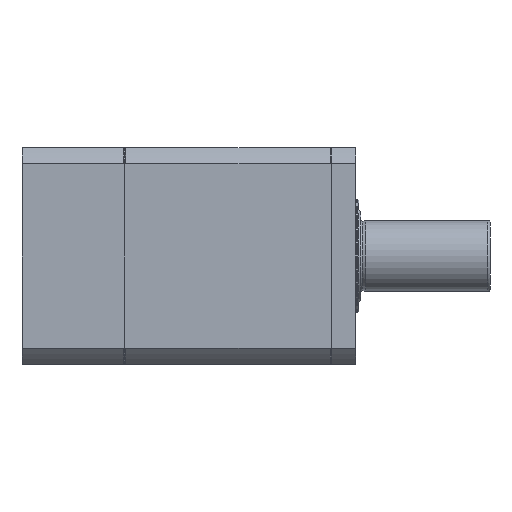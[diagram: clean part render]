
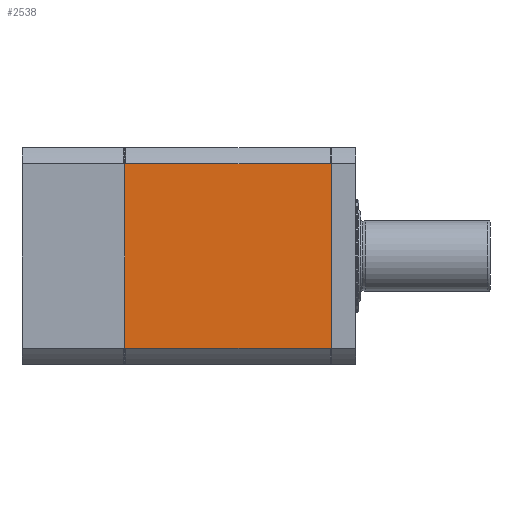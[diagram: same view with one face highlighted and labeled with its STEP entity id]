
A CAD part, front view. The second image highlights one B-rep face of the part: STEP entity #2538.
In plain terms, the highlighted planar face has unit normal (0, -1, 0).
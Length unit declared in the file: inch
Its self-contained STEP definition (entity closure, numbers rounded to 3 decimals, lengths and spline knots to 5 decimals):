
#209 = EDGE_CURVE ( 'NONE', #11390, #5976, #3810, .T. ) ;
#641 = VERTEX_POINT ( 'NONE', #8202 ) ;
#1088 = CARTESIAN_POINT ( 'NONE',  ( -0.01969, -2.10039, -1.7842 ) ) ;
#1378 = VERTEX_POINT ( 'NONE', #15413 ) ;
#1840 = CARTESIAN_POINT ( 'NONE',  ( -2.34471, -2.10039, -1.7842 ) ) ;
#2108 = VECTOR ( 'NONE', #4877, 39.37008 ) ;
#2406 = ORIENTED_EDGE ( 'NONE', *, *, #209, .F. ) ;
#2538 = ADVANCED_FACE ( 'NONE', ( #8187 ), #4128, .T. ) ;
#2589 = CARTESIAN_POINT ( 'NONE',  ( -3.99281, -2.10039, 1.77403 ) ) ;
#2959 = CARTESIAN_POINT ( 'NONE',  ( -0.0131, -2.10039, 1.77403 ) ) ;
#3158 = VERTEX_POINT ( 'NONE', #13363 ) ;
#3235 = CARTESIAN_POINT ( 'NONE',  ( -0.00654, -2.10039, 1.76384 ) ) ;
#3483 = ORIENTED_EDGE ( 'NONE', *, *, #14432, .F. ) ;
#3529 = CARTESIAN_POINT ( 'NONE',  ( -2.34471, -2.10039, 1.7842 ) ) ;
#3557 = CARTESIAN_POINT ( 'NONE',  ( -0.00654, -2.10039, -1.76384 ) ) ;
#3628 = DIRECTION ( 'NONE',  ( 0., 0., -1. ) ) ;
#3669 = CARTESIAN_POINT ( 'NONE',  ( -4.00591, -2.10039, 2.10039 ) ) ;
#3687 = CARTESIAN_POINT ( 'NONE',  ( 0., -2.10039, -1.75364 ) ) ;
#3810 = LINE ( 'NONE', #9415, #6575 ) ;
#3849 = B_SPLINE_CURVE_WITH_KNOTS ( 'NONE', 3,
 ( #17647, #15098, #16184, #12025 ),
 .UNSPECIFIED., .F., .F.,
 ( 4, 4 ),
 ( 0.0932, 0.09413 ),
 .UNSPECIFIED. ) ;
#4128 = PLANE ( 'NONE',  #9977 ) ;
#4207 = VERTEX_POINT ( 'NONE', #14386 ) ;
#4468 = ORIENTED_EDGE ( 'NONE', *, *, #12099, .T. ) ;
#4877 = DIRECTION ( 'NONE',  ( 1., 0., 0. ) ) ;
#4897 = VECTOR ( 'NONE', #6088, 39.37008 ) ;
#5179 = CARTESIAN_POINT ( 'NONE',  ( -0.0131, -2.10039, -1.77403 ) ) ;
#5496 = CARTESIAN_POINT ( 'NONE',  ( -4.00591, -2.10039, 1.75364 ) ) ;
#5932 = B_SPLINE_CURVE_WITH_KNOTS ( 'NONE', 3,
 ( #12114, #3557, #5179, #1088 ),
 .UNSPECIFIED., .F., .F.,
 ( 4, 4 ),
 ( 0.1903, 0.19124 ),
 .UNSPECIFIED. ) ;
#5976 = VERTEX_POINT ( 'NONE', #3687 ) ;
#6088 = DIRECTION ( 'NONE',  ( -1., 0., 0. ) ) ;
#6267 = LINE ( 'NONE', #1840, #2108 ) ;
#6575 = VECTOR ( 'NONE', #3628, 39.37008 ) ;
#6579 = CARTESIAN_POINT ( 'NONE',  ( -4.00591, -2.10039, 1.75364 ) ) ;
#6785 = EDGE_CURVE ( 'NONE', #4207, #3158, #6267, .T. ) ;
#6993 = CARTESIAN_POINT ( 'NONE',  ( -3.99937, -2.10039, 1.76384 ) ) ;
#7207 = CARTESIAN_POINT ( 'NONE',  ( 0., -2.10039, 1.75364 ) ) ;
#7417 = EDGE_CURVE ( 'NONE', #15353, #11390, #11000, .T. ) ;
#8050 = EDGE_CURVE ( 'NONE', #14435, #1378, #14241, .T. ) ;
#8187 = FACE_OUTER_BOUND ( 'NONE', #15782, .T. ) ;
#8202 = CARTESIAN_POINT ( 'NONE',  ( -4.00591, -2.10039, -1.75364 ) ) ;
#9299 = ORIENTED_EDGE ( 'NONE', *, *, #6785, .T. ) ;
#9415 = CARTESIAN_POINT ( 'NONE',  ( 0., -2.10039, 0. ) ) ;
#9634 = ORIENTED_EDGE ( 'NONE', *, *, #7417, .F. ) ;
#9834 = DIRECTION ( 'NONE',  ( 0., 0., -1. ) ) ;
#9977 = AXIS2_PLACEMENT_3D ( 'NONE', #16760, #15131, #9834 ) ;
#10097 = EDGE_CURVE ( 'NONE', #14435, #641, #16290, .T. ) ;
#10552 = ORIENTED_EDGE ( 'NONE', *, *, #8050, .F. ) ;
#10604 = LINE ( 'NONE', #3529, #4897 ) ;
#11000 = B_SPLINE_CURVE_WITH_KNOTS ( 'NONE', 3,
 ( #11492, #2959, #3235, #16844 ),
 .UNSPECIFIED., .F., .F.,
 ( 4, 4 ),
 ( 0.0932, 0.09413 ),
 .UNSPECIFIED. ) ;
#11030 = CARTESIAN_POINT ( 'NONE',  ( -3.98622, -2.10039, 1.7842 ) ) ;
#11390 = VERTEX_POINT ( 'NONE', #7207 ) ;
#11492 = CARTESIAN_POINT ( 'NONE',  ( -0.01969, -2.10039, 1.7842 ) ) ;
#12025 = CARTESIAN_POINT ( 'NONE',  ( -4.00591, -2.10039, -1.75364 ) ) ;
#12099 = EDGE_CURVE ( 'NONE', #15353, #1378, #10604, .T. ) ;
#12105 = VECTOR ( 'NONE', #16388, 39.37008 ) ;
#12114 = CARTESIAN_POINT ( 'NONE',  ( 0., -2.10039, -1.75364 ) ) ;
#12752 = ORIENTED_EDGE ( 'NONE', *, *, #17975, .F. ) ;
#13363 = CARTESIAN_POINT ( 'NONE',  ( -0.01969, -2.10039, -1.7842 ) ) ;
#14241 = B_SPLINE_CURVE_WITH_KNOTS ( 'NONE', 3,
 ( #5496, #6993, #2589, #11030 ),
 .UNSPECIFIED., .F., .F.,
 ( 4, 4 ),
 ( 0.1903, 0.19124 ),
 .UNSPECIFIED. ) ;
#14386 = CARTESIAN_POINT ( 'NONE',  ( -3.98622, -2.10039, -1.7842 ) ) ;
#14432 = EDGE_CURVE ( 'NONE', #5976, #3158, #5932, .T. ) ;
#14435 = VERTEX_POINT ( 'NONE', #6579 ) ;
#15098 = CARTESIAN_POINT ( 'NONE',  ( -3.9928, -2.10039, -1.77403 ) ) ;
#15131 = DIRECTION ( 'NONE',  ( 0., -1., 0. ) ) ;
#15353 = VERTEX_POINT ( 'NONE', #17714 ) ;
#15413 = CARTESIAN_POINT ( 'NONE',  ( -3.98622, -2.10039, 1.7842 ) ) ;
#15782 = EDGE_LOOP ( 'NONE', ( #2406, #9634, #4468, #10552, #17329, #12752, #9299, #3483 ) ) ;
#16184 = CARTESIAN_POINT ( 'NONE',  ( -3.99937, -2.10039, -1.76384 ) ) ;
#16290 = LINE ( 'NONE', #3669, #12105 ) ;
#16388 = DIRECTION ( 'NONE',  ( 0., 0., -1. ) ) ;
#16760 = CARTESIAN_POINT ( 'NONE',  ( -4.00591, -2.10039, 2.10039 ) ) ;
#16844 = CARTESIAN_POINT ( 'NONE',  ( 0., -2.10039, 1.75364 ) ) ;
#17329 = ORIENTED_EDGE ( 'NONE', *, *, #10097, .T. ) ;
#17647 = CARTESIAN_POINT ( 'NONE',  ( -3.98622, -2.10039, -1.7842 ) ) ;
#17714 = CARTESIAN_POINT ( 'NONE',  ( -0.01969, -2.10039, 1.7842 ) ) ;
#17975 = EDGE_CURVE ( 'NONE', #4207, #641, #3849, .T. ) ;
